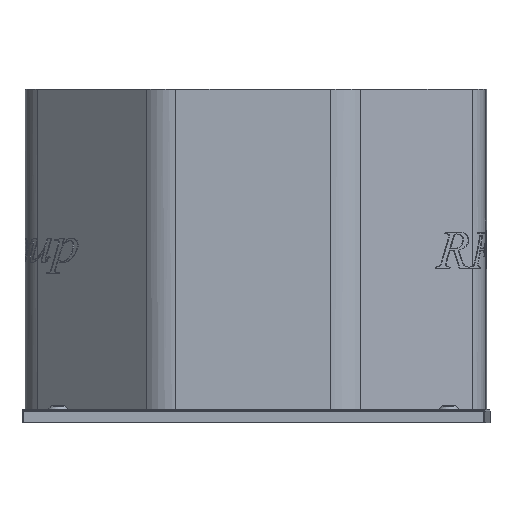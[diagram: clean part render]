
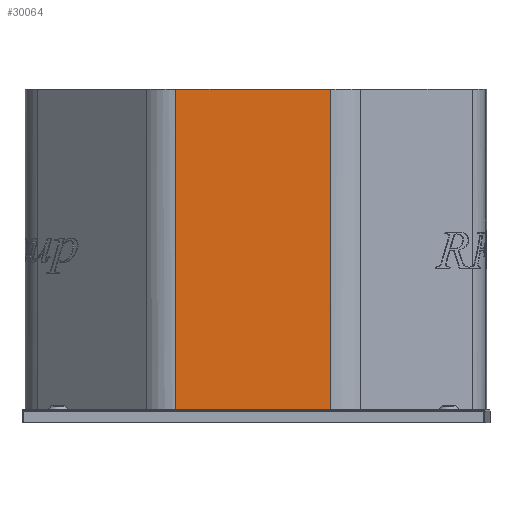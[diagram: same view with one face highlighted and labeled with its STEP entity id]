
A CAD part, front view. The second image highlights one B-rep face of the part: STEP entity #30064.
In plain terms, the highlighted planar face has unit normal (-0.012, -1, 0).
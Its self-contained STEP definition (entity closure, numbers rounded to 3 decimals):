
#1314=PLANE('',#32032);
#3504=FACE_OUTER_BOUND('',#5212,.T.);
#5212=EDGE_LOOP('',(#25412,#25413,#25414,#25415));
#7488=LINE('',#51620,#10155);
#7728=LINE('',#52763,#10395);
#7729=LINE('',#52766,#10396);
#7730=LINE('',#52767,#10397);
#10155=VECTOR('',#36710,10.);
#10395=VECTOR('',#37518,10.);
#10396=VECTOR('',#37521,10.);
#10397=VECTOR('',#37522,10.);
#13867=VERTEX_POINT('',#51617);
#13868=VERTEX_POINT('',#51619);
#14335=VERTEX_POINT('',#52761);
#14336=VERTEX_POINT('',#52765);
#17731=EDGE_CURVE('',#13867,#13868,#7488,.T.);
#18215=EDGE_CURVE('',#14335,#13867,#7728,.T.);
#18216=EDGE_CURVE('',#14335,#14336,#7729,.T.);
#18217=EDGE_CURVE('',#14336,#13868,#7730,.T.);
#25412=ORIENTED_EDGE('',*,*,#17731,.F.);
#25413=ORIENTED_EDGE('',*,*,#18215,.F.);
#25414=ORIENTED_EDGE('',*,*,#18216,.T.);
#25415=ORIENTED_EDGE('',*,*,#18217,.T.);
#30064=ADVANCED_FACE('',(#3504),#1314,.T.);
#32032=AXIS2_PLACEMENT_3D('',#52764,#37519,#37520);
#36710=DIRECTION('',(-1.,0.012,0.));
#37518=DIRECTION('',(0.,0.,-1.));
#37519=DIRECTION('center_axis',(-0.012,-1.,
0.));
#37520=DIRECTION('ref_axis',(-1.,0.012,0.));
#37521=DIRECTION('',(-1.,0.012,0.));
#37522=DIRECTION('',(0.,0.,-1.));
#51617=CARTESIAN_POINT('',(143.058,-443.37,-2.354));
#51619=CARTESIAN_POINT('',(-158.099,-439.715,-2.354));
#51620=CARTESIAN_POINT('',(67.769,-442.457,-2.354));
#52761=CARTESIAN_POINT('',(143.058,-443.37,621.646));
#52763=CARTESIAN_POINT('',(143.058,-443.37,621.646));
#52764=CARTESIAN_POINT('Origin',(143.058,-443.37,621.646));
#52765=CARTESIAN_POINT('',(-158.099,-439.715,621.646));
#52766=CARTESIAN_POINT('',(143.058,-443.37,621.646));
#52767=CARTESIAN_POINT('',(-158.099,-439.715,621.646));
